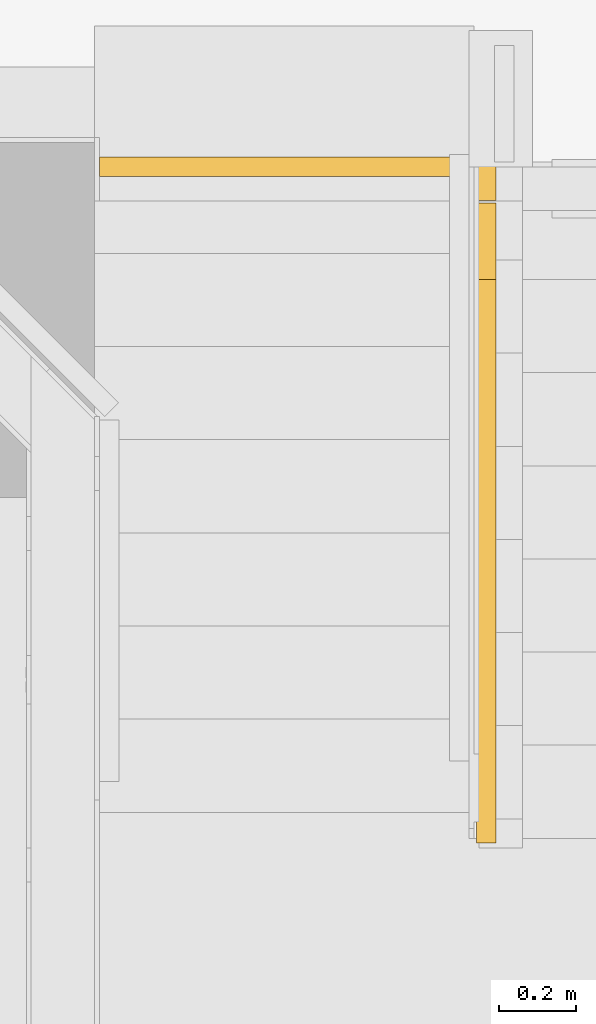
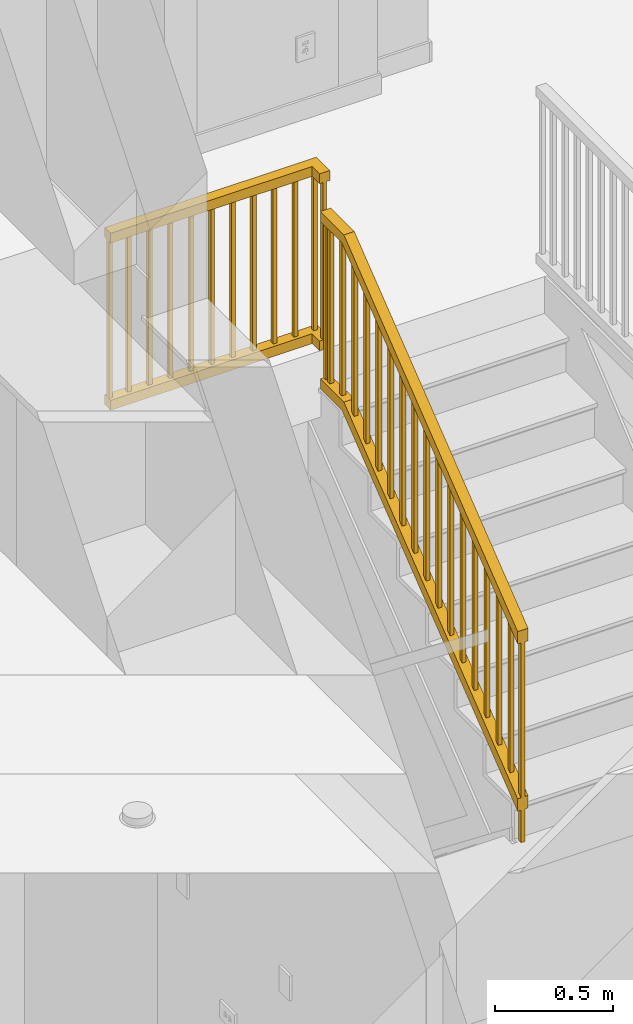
# One storey, part 32 of 60: 2 railings, 1 element without a shape of its own.
"""IFC2X3 building model written with IfcOpenShell, lengths in feet."""

from ifc_helpers import new_model, entity, si_unit, converted_unit, direction, frame, origin, place, context, subcontext, project, spatial, faceted_brep, material, type_object, element, aggregate, save


model = new_model("IFC2X3")

# Units and contexts
model_context = context("Model", 3, precision=0.0001, world=origin(), true_north=direction((6.123031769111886e-17, 1.0)))
plan_context = context("Plan", 3, precision=0.0001, world=origin(), true_north=direction((6.123031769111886e-17, 1.0)))
body_context = subcontext(model_context, "Body", "Model", "MODEL_VIEW")
ifc_project = project(units=[converted_unit("LENGTHUNIT", "FOOT", entity("IfcLengthMeasure", 0.3048), si_unit("LENGTHUNIT", "METRE"), dimensions=[1, 0, 0, 0, 0, 0, 0]), converted_unit("AREAUNIT", "SQUARE FOOT", entity("IfcAreaMeasure", 0.09290304), si_unit("AREAUNIT", "SQUARE_METRE"), dimensions=[2, 0, 0, 0, 0, 0, 0]), converted_unit("PLANEANGLEUNIT", "DEGREE", entity("IfcPlaneAngleMeasure", 0.017453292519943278), si_unit("PLANEANGLEUNIT", "RADIAN"), dimensions=[0, 0, 0, 0, 0, 0, 0])], contexts=[model_context, plan_context])

# Site, building, storey
site_placement = place(None, origin())
site = spatial("IfcSite", under=ifc_project, at=site_placement, Name="Default", CompositionType="ELEMENT")
building_placement = place(site_placement, origin())
building = spatial("IfcBuilding", under=site, at=building_placement, CompositionType="ELEMENT")
storey_placement = place(building_placement, origin())
storey = spatial("IfcBuildingStorey", under=building, at=storey_placement, Name="First floor", CompositionType="ELEMENT", Elevation=0.0)

# Stair, railing
type_product = type_object("IfcTypeProduct", Name="Assembled Stair:Stair_2018")
stair_placement = place(storey_placement, origin())
stair = element("IfcStair", 1, at=stair_placement, inside=storey, type_object=type_product, Name="Assembled Stair:Stair", ObjectType="Assembled Stair:Stair_2018", ShapeType="NOTDEFINED")
ifc_material = material(Name="Default New Material")
railing_type = type_object("IfcRailingType", Name="Railing:Railing_1.3 2", PredefinedType="NOTDEFINED")
railing_1_placement = place(stair_placement, frame((16.728992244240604, 5.211357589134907, 5.648437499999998)))
railing_1 = element("IfcRailing", 2, at=railing_1_placement, type_object=railing_type, material=ifc_material, Name="Railing:Railing_1.3 2", ObjectType="Railing:Railing_1.3 2", PredefinedType="NOTDEFINED", context=body_context, shape_type="Brep", body=[
    faceted_brep([(0.1145833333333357, 5.302083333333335, 7.2265624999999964), (0.0520833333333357, 5.302083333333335, 7.2265624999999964), (0.0520833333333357, 5.302083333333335, 4.559895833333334), (0.1145833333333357, 5.302083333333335, 4.559895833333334), (0.1145833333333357, 5.364583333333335, 7.2265624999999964), (0.1145833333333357, 5.364583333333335, 4.559895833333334), (0.0520833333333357, 5.364583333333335, 7.2265624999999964), (0.0520833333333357, 5.364583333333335, 4.559895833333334)], [[[0, 1, 2, 3]], [[4, 0, 3, 5]], [[6, 4, 5, 7]], [[1, 6, 7, 2]], [[1, 0, 4, 6]], [[3, 2, 7, 5]]]),
    faceted_brep([(0.1145833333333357, 4.968749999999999, 7.2265624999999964), (0.0520833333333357, 4.968749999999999, 7.2265624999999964), (0.0520833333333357, 4.968749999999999, 4.559895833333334), (0.1145833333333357, 4.968749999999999, 4.559895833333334), (0.1145833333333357, 5.031249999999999, 7.2265624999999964), (0.1145833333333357, 5.031249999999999, 4.559895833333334), (0.0520833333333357, 5.031249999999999, 7.2265624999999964), (0.0520833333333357, 5.031249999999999, 4.559895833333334)], [[[0, 1, 2, 3]], [[4, 0, 3, 5]], [[6, 4, 5, 7]], [[1, 6, 7, 2]], [[1, 0, 4, 6]], [[3, 2, 7, 5]]]),
    faceted_brep([(0.1145833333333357, 4.635416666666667, 7.032487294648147), (0.0520833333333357, 4.635416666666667, 7.032487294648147), (0.0520833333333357, 4.635416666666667, 4.411228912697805), (0.1145833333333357, 4.635416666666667, 4.411228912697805), (0.1145833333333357, 4.697916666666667, 7.081665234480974), (0.1145833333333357, 4.697916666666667, 4.4604068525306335), (0.0520833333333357, 4.697916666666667, 7.081665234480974), (0.0520833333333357, 4.697916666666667, 4.4604068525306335)], [[[0, 1, 2, 3]], [[4, 0, 3, 5]], [[6, 4, 5, 7]], [[1, 6, 7, 2]], [[1, 0, 4, 6]], [[3, 2, 7, 5]]]),
    faceted_brep([(0.1145833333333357, 4.302083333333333, 6.770204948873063), (0.0520833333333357, 4.302083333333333, 6.770204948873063), (0.0520833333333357, 4.302083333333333, 4.148946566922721), (0.1145833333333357, 4.302083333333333, 4.148946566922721), (0.1145833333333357, 4.364583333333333, 6.81938288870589), (0.1145833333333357, 4.364583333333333, 4.1981245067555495), (0.0520833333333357, 4.364583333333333, 6.81938288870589), (0.0520833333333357, 4.364583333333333, 4.1981245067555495)], [[[0, 1, 2, 3]], [[4, 0, 3, 5]], [[6, 4, 5, 7]], [[1, 6, 7, 2]], [[1, 0, 4, 6]], [[3, 2, 7, 5]]]),
    faceted_brep([(0.1145833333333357, 3.968750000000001, 6.507922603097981), (0.0520833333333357, 3.968750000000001, 6.507922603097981), (0.0520833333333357, 3.968750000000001, 3.8866642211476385), (0.1145833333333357, 3.968750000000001, 3.8866642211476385), (0.1145833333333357, 4.031250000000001, 6.55710054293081), (0.1145833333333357, 4.031250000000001, 3.9358421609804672), (0.0520833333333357, 4.031250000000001, 6.55710054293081), (0.0520833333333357, 4.031250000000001, 3.9358421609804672)], [[[0, 1, 2, 3]], [[4, 0, 3, 5]], [[6, 4, 5, 7]], [[1, 6, 7, 2]], [[1, 0, 4, 6]], [[3, 2, 7, 5]]]),
    faceted_brep([(0.1145833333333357, 3.635416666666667, 6.245640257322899), (0.0520833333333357, 3.635416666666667, 6.245640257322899), (0.0520833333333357, 3.635416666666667, 3.6243818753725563), (0.1145833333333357, 3.635416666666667, 3.6243818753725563), (0.1145833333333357, 3.697916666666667, 6.294818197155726), (0.1145833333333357, 3.697916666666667, 3.673559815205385), (0.0520833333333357, 3.697916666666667, 6.294818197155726), (0.0520833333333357, 3.697916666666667, 3.673559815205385)], [[[0, 1, 2, 3]], [[4, 0, 3, 5]], [[6, 4, 5, 7]], [[1, 6, 7, 2]], [[1, 0, 4, 6]], [[3, 2, 7, 5]]]),
    faceted_brep([(0.1145833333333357, 3.302083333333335, 5.983357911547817), (0.0520833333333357, 3.302083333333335, 5.983357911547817), (0.0520833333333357, 3.302083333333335, 3.362099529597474), (0.1145833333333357, 3.302083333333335, 3.362099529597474), (0.1145833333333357, 3.364583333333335, 6.032535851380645), (0.1145833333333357, 3.364583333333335, 3.4112774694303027), (0.0520833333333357, 3.364583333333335, 6.032535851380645), (0.0520833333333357, 3.364583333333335, 3.4112774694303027)], [[[0, 1, 2, 3]], [[4, 0, 3, 5]], [[6, 4, 5, 7]], [[1, 6, 7, 2]], [[1, 0, 4, 6]], [[3, 2, 7, 5]]]),
    faceted_brep([(0.1145833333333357, 2.968750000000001, 5.721075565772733), (0.0520833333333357, 2.968750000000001, 5.721075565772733), (0.0520833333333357, 2.968750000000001, 3.09981718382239), (0.1145833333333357, 2.968750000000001, 3.09981718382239), (0.1145833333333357, 3.031250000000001, 5.770253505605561), (0.1145833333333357, 3.031250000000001, 3.1489951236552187), (0.0520833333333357, 3.031250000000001, 5.770253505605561), (0.0520833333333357, 3.031250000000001, 3.1489951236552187)], [[[0, 1, 2, 3]], [[4, 0, 3, 5]], [[6, 4, 5, 7]], [[1, 6, 7, 2]], [[1, 0, 4, 6]], [[3, 2, 7, 5]]]),
    faceted_brep([(0.1145833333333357, 2.635416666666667, 5.45879321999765), (0.0520833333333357, 2.635416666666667, 5.45879321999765), (0.0520833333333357, 2.635416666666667, 2.8375348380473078), (0.1145833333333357, 2.635416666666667, 2.8375348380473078), (0.1145833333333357, 2.697916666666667, 5.507971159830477), (0.1145833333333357, 2.697916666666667, 2.8867127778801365), (0.0520833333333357, 2.697916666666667, 5.507971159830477), (0.0520833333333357, 2.697916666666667, 2.8867127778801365)], [[[0, 1, 2, 3]], [[4, 0, 3, 5]], [[6, 4, 5, 7]], [[1, 6, 7, 2]], [[1, 0, 4, 6]], [[3, 2, 7, 5]]]),
    faceted_brep([(0.1145833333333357, 2.302083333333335, 5.196510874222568), (0.0520833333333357, 2.302083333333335, 5.196510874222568), (0.0520833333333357, 2.302083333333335, 2.5752524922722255), (0.1145833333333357, 2.302083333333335, 2.5752524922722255), (0.1145833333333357, 2.364583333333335, 5.245688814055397), (0.1145833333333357, 2.364583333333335, 2.6244304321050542), (0.0520833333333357, 2.364583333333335, 5.245688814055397), (0.0520833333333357, 2.364583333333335, 2.6244304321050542)], [[[0, 1, 2, 3]], [[4, 0, 3, 5]], [[6, 4, 5, 7]], [[1, 6, 7, 2]], [[1, 0, 4, 6]], [[3, 2, 7, 5]]]),
    faceted_brep([(0.1145833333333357, 1.9687500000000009, 4.934228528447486), (0.0520833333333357, 1.9687500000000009, 4.934228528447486), (0.0520833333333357, 1.9687500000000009, 2.3129701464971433), (0.1145833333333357, 1.9687500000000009, 2.3129701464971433), (0.1145833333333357, 2.031250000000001, 4.983406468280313), (0.1145833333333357, 2.031250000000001, 2.362148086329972), (0.0520833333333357, 2.031250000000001, 4.983406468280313), (0.0520833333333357, 2.031250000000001, 2.362148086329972)], [[[0, 1, 2, 3]], [[4, 0, 3, 5]], [[6, 4, 5, 7]], [[1, 6, 7, 2]], [[1, 0, 4, 6]], [[3, 2, 7, 5]]]),
    faceted_brep([(0.1145833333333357, 1.635416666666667, 4.671946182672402), (0.0520833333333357, 1.635416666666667, 4.671946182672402), (0.0520833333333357, 1.635416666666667, 2.0506878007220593), (0.1145833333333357, 1.635416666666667, 2.0506878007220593), (0.1145833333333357, 1.697916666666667, 4.721124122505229), (0.1145833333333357, 1.697916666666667, 2.099865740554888), (0.0520833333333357, 1.697916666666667, 4.721124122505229), (0.0520833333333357, 1.697916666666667, 2.099865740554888)], [[[0, 1, 2, 3]], [[4, 0, 3, 5]], [[6, 4, 5, 7]], [[1, 6, 7, 2]], [[1, 0, 4, 6]], [[3, 2, 7, 5]]]),
    faceted_brep([(0.1145833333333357, 1.302083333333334, 4.4096638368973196), (0.0520833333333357, 1.302083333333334, 4.4096638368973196), (0.0520833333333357, 1.302083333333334, 1.788405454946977), (0.1145833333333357, 1.302083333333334, 1.788405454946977), (0.1145833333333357, 1.364583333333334, 4.458841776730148), (0.1145833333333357, 1.364583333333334, 1.8375833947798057), (0.0520833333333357, 1.364583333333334, 4.458841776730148), (0.0520833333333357, 1.364583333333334, 1.8375833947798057)], [[[0, 1, 2, 3]], [[4, 0, 3, 5]], [[6, 4, 5, 7]], [[1, 6, 7, 2]], [[1, 0, 4, 6]], [[3, 2, 7, 5]]]),
    faceted_brep([(0.1145833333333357, 0.9687500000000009, 4.147381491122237), (0.0520833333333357, 0.9687500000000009, 4.147381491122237), (0.0520833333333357, 0.9687500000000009, 1.5261231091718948), (0.1145833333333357, 0.9687500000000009, 1.5261231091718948), (0.1145833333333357, 1.0312500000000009, 4.196559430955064), (0.1145833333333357, 1.0312500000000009, 1.5753010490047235), (0.0520833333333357, 1.0312500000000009, 4.196559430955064), (0.0520833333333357, 1.0312500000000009, 1.5753010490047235)], [[[0, 1, 2, 3]], [[4, 0, 3, 5]], [[6, 4, 5, 7]], [[1, 6, 7, 2]], [[1, 0, 4, 6]], [[3, 2, 7, 5]]]),
    faceted_brep([(0.1145833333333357, 0.6354166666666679, 3.885099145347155), (0.0520833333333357, 0.6354166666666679, 3.885099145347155), (0.0520833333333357, 0.6354166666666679, 1.2638407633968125), (0.1145833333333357, 0.6354166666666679, 1.2638407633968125), (0.1145833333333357, 0.6979166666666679, 3.9342770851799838), (0.1145833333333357, 0.6979166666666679, 1.3130187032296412), (0.0520833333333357, 0.6979166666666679, 3.9342770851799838), (0.0520833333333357, 0.6979166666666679, 1.3130187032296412)], [[[0, 1, 2, 3]], [[4, 0, 3, 5]], [[6, 4, 5, 7]], [[1, 6, 7, 2]], [[1, 0, 4, 6]], [[3, 2, 7, 5]]]),
    faceted_brep([(0.1145833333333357, 0.3020833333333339, 3.622816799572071), (0.0520833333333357, 0.3020833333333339, 3.622816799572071), (0.0520833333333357, 0.3020833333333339, 1.0015584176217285), (0.1145833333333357, 0.3020833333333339, 1.0015584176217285), (0.1145833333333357, 0.3645833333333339, 3.6719947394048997), (0.1145833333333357, 0.3645833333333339, 1.0507363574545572), (0.0520833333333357, 0.3645833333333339, 3.6719947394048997), (0.0520833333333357, 0.3645833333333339, 1.0507363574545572)], [[[0, 1, 2, 3]], [[4, 0, 3, 5]], [[6, 4, 5, 7]], [[1, 6, 7, 2]], [[1, 0, 4, 6]], [[3, 2, 7, 5]]]),
    faceted_brep([(0.1145833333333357, 5.416666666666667, 7.2265625), (0.0520833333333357, 5.416666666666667, 7.2265625), (0.0520833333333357, 5.416666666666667, 4.393229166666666), (0.1145833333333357, 5.416666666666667, 4.393229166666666), (0.1145833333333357, 5.479166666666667, 7.2265625), (0.1145833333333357, 5.479166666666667, 4.393229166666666), (0.0520833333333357, 5.479166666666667, 7.2265625), (0.0520833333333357, 5.479166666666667, 4.393229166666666)], [[[0, 1, 2, 3]], [[4, 0, 3, 5]], [[6, 4, 5, 7]], [[1, 6, 7, 2]], [[1, 0, 4, 6]], [[3, 2, 7, 5]]]),
    faceted_brep([(0.1145833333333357, 0.0, 3.385123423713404), (0.0520833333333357, 0.0, 3.385123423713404), (0.0520833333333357, 0.0, 0.0), (0.1145833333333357, 0.0, 0.0), (0.1145833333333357, 0.0625, 3.4343013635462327), (0.1145833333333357, 0.0625, 0.0), (0.0520833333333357, 0.0625, 3.434301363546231), (0.0520833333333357, 0.0625, 0.0)], [[[0, 1, 2, 3]], [[4, 0, 3, 5]], [[6, 4, 5, 7]], [[1, 6, 7, 2]], [[1, 0, 4, 6]], [[3, 2, 7, 5]]]),
    faceted_brep([(0.1666666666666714, 0.0, 0.7638650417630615), (0.0, 0.0, 0.7638650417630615), (0.0, 0.0, 0.551790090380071), (0.16666666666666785, 0.0, 0.551790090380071), (0.1666666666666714, 4.824356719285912, 4.559895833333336), (0.0, 4.824356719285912, 4.559895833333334), (0.0, 4.882065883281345, 4.393229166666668), (0.16666666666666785, 4.882065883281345, 4.393229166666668), (0.16666666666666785, 5.479166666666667, 4.5598958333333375), (0.16666666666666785, 5.479166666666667, 4.39322916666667), (0.0, 5.479166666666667, 4.39322916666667), (0.0, 5.479166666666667, 4.5598958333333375)], [[[0, 1, 2, 3]], [[1, 0, 4, 5]], [[2, 1, 5, 6]], [[3, 2, 6, 7]], [[0, 3, 7, 4]], [[8, 9, 10, 11]], [[5, 4, 8, 11]], [[6, 5, 11, 10]], [[7, 6, 10, 9]], [[4, 7, 9, 8]]]),
    faceted_brep([(0.0, 0.0, 3.5971983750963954), (0.0, 0.0, 3.385123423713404), (0.16666666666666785, 0.0, 3.385123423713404), (0.16666666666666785, 0.0, 3.5971983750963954), (0.0, 4.824356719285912, 7.393229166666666), (0.0, 4.882065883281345, 7.226562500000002), (0.16666666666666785, 4.882065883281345, 7.226562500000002), (0.16666666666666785, 4.824356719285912, 7.39322916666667), (0.0, 5.479166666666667, 7.393229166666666), (0.16666666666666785, 5.479166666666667, 7.393229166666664), (0.1666666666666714, 5.479166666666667, 7.226562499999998), (0.0, 5.479166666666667, 7.2265625)], [[[0, 1, 2, 3]], [[1, 0, 4, 5]], [[2, 1, 5, 6]], [[3, 2, 6, 7]], [[0, 3, 7, 4]], [[8, 9, 10, 11]], [[5, 4, 8, 11]], [[6, 5, 11, 10]], [[7, 6, 10, 9]], [[4, 7, 9, 8]]]),
])
aggregate(stair, [railing_1])

# Railing
railing_2_placement = place(storey_placement, frame((13.500000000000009, 10.711357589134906, 10.666666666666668)))
element("IfcRailing", 3, at=railing_2_placement, inside=storey, type_object=railing_type, material=ifc_material, Name="Railing:Railing_1.3 2", ObjectType="Railing:Railing_1.3 2", PredefinedType="NOTDEFINED", context=body_context, shape_type="Brep", body=[
    faceted_brep([(2.9687499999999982, 0.25739241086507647, 2.833333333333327), (2.9687499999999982, 0.31989241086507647, 2.833333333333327), (2.9687499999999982, 0.31989241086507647, 0.1666666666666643), (2.9687499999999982, 0.25739241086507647, 0.1666666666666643), (3.0312499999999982, 0.25739241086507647, 2.833333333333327), (3.0312499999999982, 0.25739241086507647, 0.1666666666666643), (3.0312499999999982, 0.31989241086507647, 2.833333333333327), (3.0312499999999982, 0.31989241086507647, 0.1666666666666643)], [[[0, 1, 2, 3]], [[4, 0, 3, 5]], [[6, 4, 5, 7]], [[1, 6, 7, 2]], [[1, 0, 4, 6]], [[3, 2, 7, 5]]]),
    faceted_brep([(2.635416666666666, 0.25739241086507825, 2.833333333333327), (2.635416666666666, 0.31989241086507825, 2.833333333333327), (2.635416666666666, 0.31989241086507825, 0.1666666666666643), (2.635416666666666, 0.25739241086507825, 0.1666666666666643), (2.697916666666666, 0.25739241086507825, 2.833333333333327), (2.697916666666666, 0.25739241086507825, 0.1666666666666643), (2.697916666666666, 0.31989241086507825, 2.833333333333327), (2.697916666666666, 0.31989241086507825, 0.1666666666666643)], [[[0, 1, 2, 3]], [[4, 0, 3, 5]], [[6, 4, 5, 7]], [[1, 6, 7, 2]], [[1, 0, 4, 6]], [[3, 2, 7, 5]]]),
    faceted_brep([(2.302083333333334, 0.25739241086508, 2.833333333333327), (2.302083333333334, 0.31989241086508, 2.833333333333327), (2.302083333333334, 0.31989241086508, 0.1666666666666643), (2.302083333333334, 0.25739241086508, 0.1666666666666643), (2.364583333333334, 0.25739241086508, 2.833333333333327), (2.364583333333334, 0.25739241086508, 0.1666666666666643), (2.364583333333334, 0.31989241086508, 2.833333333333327), (2.364583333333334, 0.31989241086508, 0.1666666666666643)], [[[0, 1, 2, 3]], [[4, 0, 3, 5]], [[6, 4, 5, 7]], [[1, 6, 7, 2]], [[1, 0, 4, 6]], [[3, 2, 7, 5]]]),
    faceted_brep([(1.96875, 0.2573924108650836, 2.833333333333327), (1.96875, 0.3198924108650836, 2.833333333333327), (1.96875, 0.3198924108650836, 0.1666666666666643), (1.96875, 0.2573924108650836, 0.1666666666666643), (2.03125, 0.2573924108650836, 2.833333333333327), (2.03125, 0.2573924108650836, 0.1666666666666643), (2.03125, 0.3198924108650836, 2.833333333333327), (2.03125, 0.3198924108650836, 0.1666666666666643)], [[[0, 1, 2, 3]], [[4, 0, 3, 5]], [[6, 4, 5, 7]], [[1, 6, 7, 2]], [[1, 0, 4, 6]], [[3, 2, 7, 5]]]),
    faceted_brep([(1.635416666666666, 0.25739241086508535, 2.833333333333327), (1.635416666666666, 0.31989241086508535, 2.833333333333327), (1.635416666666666, 0.31989241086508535, 0.1666666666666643), (1.635416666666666, 0.25739241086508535, 0.1666666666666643), (1.697916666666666, 0.25739241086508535, 2.833333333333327), (1.697916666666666, 0.25739241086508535, 0.1666666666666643), (1.697916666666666, 0.31989241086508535, 2.833333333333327), (1.697916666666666, 0.31989241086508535, 0.1666666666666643)], [[[0, 1, 2, 3]], [[4, 0, 3, 5]], [[6, 4, 5, 7]], [[1, 6, 7, 2]], [[1, 0, 4, 6]], [[3, 2, 7, 5]]]),
    faceted_brep([(1.302083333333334, 0.25739241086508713, 2.833333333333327), (1.302083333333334, 0.31989241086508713, 2.833333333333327), (1.302083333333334, 0.31989241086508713, 0.1666666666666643), (1.302083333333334, 0.25739241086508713, 0.1666666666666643), (1.364583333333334, 0.25739241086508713, 2.833333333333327), (1.364583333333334, 0.25739241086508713, 0.1666666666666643), (1.364583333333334, 0.31989241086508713, 2.833333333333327), (1.364583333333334, 0.31989241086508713, 0.1666666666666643)], [[[0, 1, 2, 3]], [[4, 0, 3, 5]], [[6, 4, 5, 7]], [[1, 6, 7, 2]], [[1, 0, 4, 6]], [[3, 2, 7, 5]]]),
    faceted_brep([(0.96875, 0.2573924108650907, 2.833333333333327), (0.96875, 0.3198924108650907, 2.833333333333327), (0.96875, 0.3198924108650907, 0.1666666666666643), (0.96875, 0.2573924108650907, 0.1666666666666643), (1.03125, 0.2573924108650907, 2.833333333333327), (1.03125, 0.2573924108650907, 0.1666666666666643), (1.03125, 0.3198924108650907, 2.833333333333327), (1.03125, 0.3198924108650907, 0.1666666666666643)], [[[0, 1, 2, 3]], [[4, 0, 3, 5]], [[6, 4, 5, 7]], [[1, 6, 7, 2]], [[1, 0, 4, 6]], [[3, 2, 7, 5]]]),
    faceted_brep([(0.6354166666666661, 0.25739241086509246, 2.833333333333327), (0.6354166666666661, 0.31989241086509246, 2.833333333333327), (0.6354166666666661, 0.31989241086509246, 0.1666666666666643), (0.6354166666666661, 0.25739241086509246, 0.1666666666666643), (0.6979166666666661, 0.25739241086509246, 2.833333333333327), (0.6979166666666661, 0.25739241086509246, 0.1666666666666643), (0.6979166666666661, 0.31989241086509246, 2.833333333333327), (0.6979166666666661, 0.31989241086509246, 0.1666666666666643)], [[[0, 1, 2, 3]], [[4, 0, 3, 5]], [[6, 4, 5, 7]], [[1, 6, 7, 2]], [[1, 0, 4, 6]], [[3, 2, 7, 5]]]),
    faceted_brep([(0.3020833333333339, 0.257392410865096, 2.833333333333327), (0.3020833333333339, 0.319892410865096, 2.833333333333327), (0.3020833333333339, 0.319892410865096, 0.1666666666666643), (0.3020833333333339, 0.257392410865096, 0.1666666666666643), (0.3645833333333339, 0.257392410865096, 2.833333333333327), (0.3645833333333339, 0.257392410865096, 0.1666666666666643), (0.3645833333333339, 0.319892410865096, 2.833333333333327), (0.3645833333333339, 0.319892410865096, 0.1666666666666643)], [[[0, 1, 2, 3]], [[4, 0, 3, 5]], [[6, 4, 5, 7]], [[1, 6, 7, 2]], [[1, 0, 4, 6]], [[3, 2, 7, 5]]]),
    faceted_brep([(3.2812499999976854, 0.2573924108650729, 2.833333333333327), (3.2812499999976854, 0.3198924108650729, 2.833333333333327), (3.2812499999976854, 0.3198924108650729, 0.1666666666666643), (3.2812499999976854, 0.2573924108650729, 0.1666666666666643), (3.3437499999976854, 0.2573924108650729, 2.833333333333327), (3.3437499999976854, 0.2573924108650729, 0.1666666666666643), (3.3437499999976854, 0.3198924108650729, 2.833333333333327), (3.3437499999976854, 0.3198924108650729, 0.1666666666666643)], [[[0, 1, 2, 3]], [[4, 0, 3, 5]], [[6, 4, 5, 7]], [[1, 6, 7, 2]], [[1, 0, 4, 6]], [[3, 2, 7, 5]]]),
    faceted_brep([(3.2812499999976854, 0.0625, 2.833333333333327), (3.3437499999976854, 0.0625, 2.833333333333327), (3.3437499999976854, 0.0625, 0.1666666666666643), (3.2812499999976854, 0.0625, 0.1666666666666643), (3.2812499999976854, 0.0, 2.833333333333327), (3.2812499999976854, 0.0, 0.1666666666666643), (3.3437499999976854, 0.0, 2.833333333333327), (3.3437499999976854, 0.0, 0.1666666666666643)], [[[0, 1, 2, 3]], [[4, 0, 3, 5]], [[6, 4, 5, 7]], [[1, 6, 7, 2]], [[1, 0, 4, 6]], [[3, 2, 7, 5]]]),
    faceted_brep([(0.0, 0.2573924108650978, 2.833333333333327), (0.0, 0.3198924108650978, 2.833333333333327), (0.0, 0.3198924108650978, 0.1666666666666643), (0.0, 0.2573924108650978, 0.1666666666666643), (0.0625, 0.2573924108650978, 2.833333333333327), (0.0625, 0.2573924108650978, 0.1666666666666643), (0.0625, 0.3198924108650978, 2.833333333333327), (0.0625, 0.3198924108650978, 0.1666666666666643)], [[[0, 1, 2, 3]], [[4, 0, 3, 5]], [[6, 4, 5, 7]], [[1, 6, 7, 2]], [[1, 0, 4, 6]], [[3, 2, 7, 5]]]),
    faceted_brep([(0.0, 0.20530907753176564, 0.1666666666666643), (0.0, 0.3719757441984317, 0.1666666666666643), (0.0, 0.37197574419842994, 0.0), (0.0, 0.20530907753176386, 0.0), (3.2291666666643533, 0.0, 0.1666666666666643), (3.2291666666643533, 0.0, 0.0), (3.3958333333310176, 0.0, 0.0), (3.3958333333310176, 0.0, 0.1666666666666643), (3.2291666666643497, 0.20530907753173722, 0.1666666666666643), (3.395833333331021, 0.37197574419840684, 0.1666666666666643), (3.3958333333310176, 0.37197574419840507, 0.0), (3.2291666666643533, 0.20530907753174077, 0.0)], [[[0, 1, 2, 3]], [[4, 5, 6, 7]], [[1, 0, 8, 9]], [[2, 1, 9, 10]], [[3, 2, 10, 11]], [[0, 3, 11, 8]], [[9, 8, 4, 7]], [[10, 9, 7, 6]], [[11, 10, 6, 5]], [[8, 11, 5, 4]]]),
    faceted_brep([(0.0, 0.3719757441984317, 3.0), (0.0, 0.3719757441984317, 2.833333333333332), (0.0, 0.20530907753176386, 2.833333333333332), (0.0, 0.20530907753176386, 3.0), (3.395833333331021, 0.0, 3.0), (3.2291666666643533, 0.0, 3.0), (3.2291666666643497, 0.0, 2.833333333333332), (3.3958333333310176, 0.0, 2.833333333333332), (3.3958333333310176, 0.37197574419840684, 3.0), (3.395833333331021, 0.37197574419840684, 2.833333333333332), (3.2291666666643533, 0.20530907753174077, 2.833333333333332), (3.2291666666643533, 0.20530907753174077, 3.0)], [[[0, 1, 2, 3]], [[4, 5, 6, 7]], [[1, 0, 8, 9]], [[2, 1, 9, 10]], [[3, 2, 10, 11]], [[0, 3, 11, 8]], [[9, 8, 4, 7]], [[10, 9, 7, 6]], [[11, 10, 6, 5]], [[8, 11, 5, 4]]]),
])

save(model, "model.ifc")
